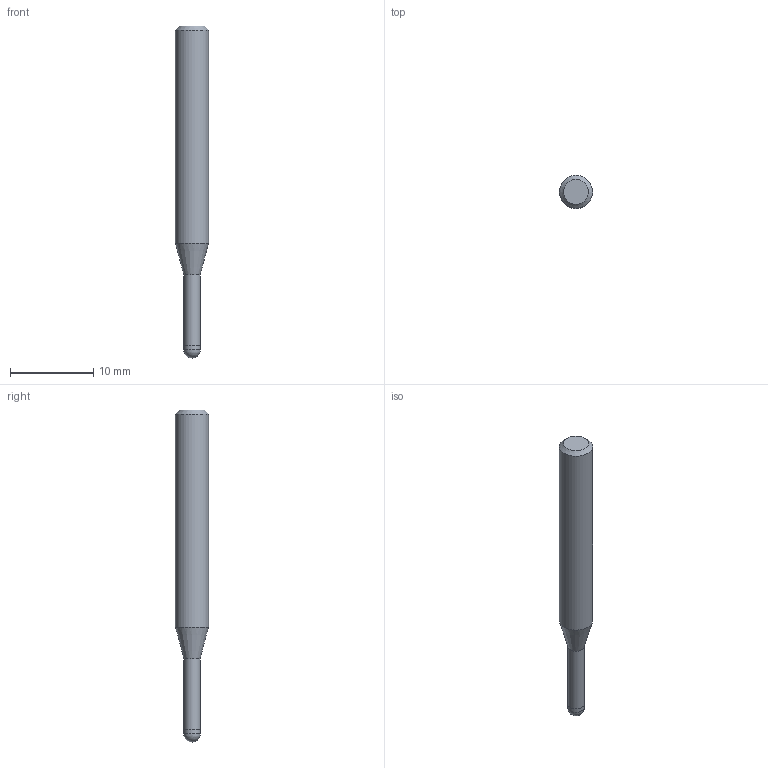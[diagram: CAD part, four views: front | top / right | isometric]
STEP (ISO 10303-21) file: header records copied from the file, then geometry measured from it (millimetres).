
FILE_DESCRIPTION((''),'2;1');
FILE_NAME('C:\Users\nsx150\AppData\Local\Temp\Mastercam 2021\QT8KEW0Y7J\TEMP.step','2021-04-23T11:21:33',(''),(''),'STEP Write','Mastercam 2021 ... CNC Software, Inc.','');
FILE_SCHEMA(('AUTOMOTIVE_DESIGN'));
Length unit declared in the file: millimetre
Products named in the file (1): None
Bounding box: 4 x 4 x 40 mm (x, y, z)
Volume: 383.7 mm3; surface area: 441.7 mm2
Topology: 2 solids, 2 shells, 9 faces, 14 edges, 8 vertices
Faces by surface type: plane 3, cylinder 3, cone 2, sphere 1
Full cylindrical faces by diameter (mm): 1.94 x1, 2 x1, 4 x1
Entity records: 211 total; most frequent: DIRECTION 36, CARTESIAN_POINT 25, AXIS2_PLACEMENT_3D 18, ORIENTED_EDGE 14, EDGE_LOOP 14, STYLED_ITEM 12, ADVANCED_FACE 9, FACE_BOUND 8
